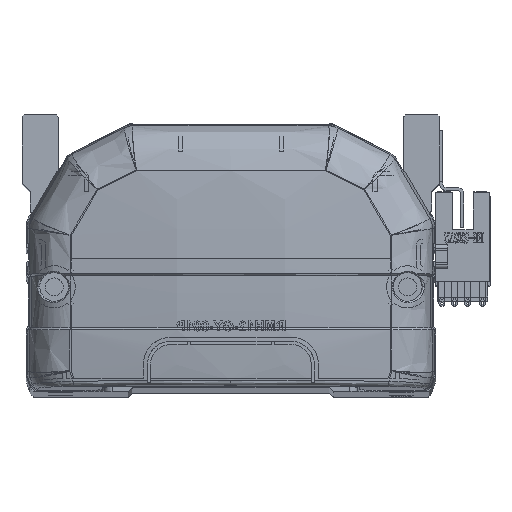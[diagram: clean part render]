
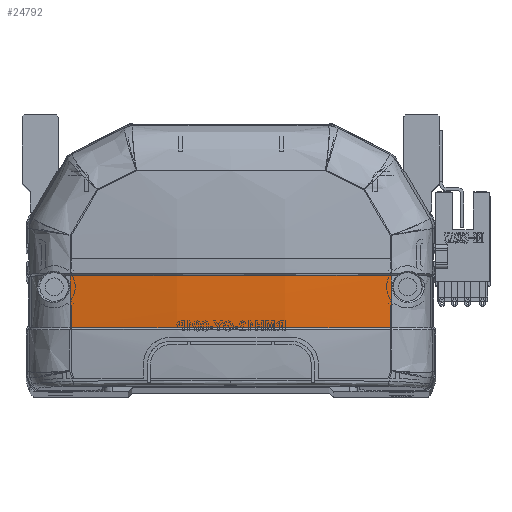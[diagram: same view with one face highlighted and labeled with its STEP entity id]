
A CAD part, top view. The second image highlights one B-rep face of the part: STEP entity #24792.
In plain terms, the highlighted free-form (B-spline) face has degree [3, 3] with [4, 4] control points.
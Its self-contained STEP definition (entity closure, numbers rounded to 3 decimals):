
#2374 = CARTESIAN_POINT ( 'NONE',  ( 39.973, 20.12, -6.142 ) ) ;
#3589 = CARTESIAN_POINT ( 'NONE',  ( 13.38, 15.83, -8.984 ) ) ;
#7023 = CARTESIAN_POINT ( 'NONE',  ( -13.373, 28.707, -9.468 ) ) ;
#7806 = ORIENTED_EDGE ( 'NONE', *, *, #35593, .T. ) ;
#8410 = CARTESIAN_POINT ( 'NONE',  ( -39.963, 28.706, -6.372 ) ) ;
#9068 = VERTEX_POINT ( 'NONE', #35617 ) ;
#11936 = ORIENTED_EDGE ( 'NONE', *, *, #25623, .T. ) ;
#12005 = CARTESIAN_POINT ( 'NONE',  ( 13.598, 28.769, -10.535 ) ) ;
#12384 = CARTESIAN_POINT ( 'NONE',  ( -13.598, 24.342, -10.47 ) ) ;
#12597 = CARTESIAN_POINT ( 'NONE',  ( 13.598, 19.918, -10.302 ) ) ;
#12736 = CARTESIAN_POINT ( 'NONE',  ( -13.384, 15.83, -8.724 ) ) ;
#13195 = CARTESIAN_POINT ( 'NONE',  ( -39.966, 24.412, -6.306 ) ) ;
#13644 = EDGE_LOOP ( 'NONE', ( #11936, #31912, #7806, #46050 ) ) ;
#13993 = CARTESIAN_POINT ( 'NONE',  ( -39.985, 15.83, -5.879 ) ) ;
#16947 = CARTESIAN_POINT ( 'NONE',  ( -26.721, 15.83, -7.624 ) ) ;
#17387 = CARTESIAN_POINT ( 'NONE',  ( 40.461, 28.832, -6.296 ) ) ;
#18141 = EDGE_CURVE ( 'NONE', #9068, #18737, #28667, .T. ) ;
#18737 = VERTEX_POINT ( 'NONE', #20833 ) ;
#20325 = CARTESIAN_POINT ( 'NONE',  ( 39.966, 24.413, -6.306 ) ) ;
#20833 = CARTESIAN_POINT ( 'NONE',  ( -39.985, 15.83, -5.879 ) ) ;
#21203 = CARTESIAN_POINT ( 'NONE',  ( -40.461, 24.47, -6.231 ) ) ;
#21388 = CARTESIAN_POINT ( 'NONE',  ( -13.598, 15.499, -10.032 ) ) ;
#21575 = CARTESIAN_POINT ( 'NONE',  ( -40.461, 15.757, -5.8 ) ) ;
#22381 = CARTESIAN_POINT ( 'NONE',  ( -39.973, 20.118, -6.142 ) ) ;
#23746 = CARTESIAN_POINT ( 'NONE',  ( -39.963, 28.706, -6.372 ) ) ;
#24086 = B_SPLINE_CURVE_WITH_KNOTS ( 'NONE', 3,
 ( #48179, #2374, #20325, #34203 ),
 .UNSPECIFIED., .F., .F.,
 ( 4, 4 ),
 ( 0., 1. ),
 .UNSPECIFIED. ) ;
#24154 = CARTESIAN_POINT ( 'NONE',  ( -26.748, 28.706, -8.432 ) ) ;
#24792 = ADVANCED_FACE ( 'NONE', ( #48797 ), #49740, .F. ) ;
#25623 = EDGE_CURVE ( 'NONE', #9068, #54892, #24086, .T. ) ;
#25694 = CARTESIAN_POINT ( 'NONE',  ( -33.365, 15.83, -6.848 ) ) ;
#25754 = CARTESIAN_POINT ( 'NONE',  ( -40.461, 28.832, -6.296 ) ) ;
#25940 = CARTESIAN_POINT ( 'NONE',  ( 13.598, 15.499, -10.032 ) ) ;
#28667 = B_SPLINE_CURVE_WITH_KNOTS ( 'NONE', 3,
 ( #39643, #44026, #3589, #49009, #12736, #31043, #16947, #25694, #35212, #44218 ),
 .UNSPECIFIED., .F., .F.,
 ( 4, 2, 2, 2, 4 ),
 ( 0., 0.04, 0.06, 0.07, 0.08 ),
 .UNSPECIFIED. ) ;
#29954 = CARTESIAN_POINT ( 'NONE',  ( 39.963, 28.706, -6.372 ) ) ;
#31043 = CARTESIAN_POINT ( 'NONE',  ( -23.389, 15.83, -7.947 ) ) ;
#31106 = CARTESIAN_POINT ( 'NONE',  ( 40.461, 15.757, -5.8 ) ) ;
#31912 = ORIENTED_EDGE ( 'NONE', *, *, #58060, .F. ) ;
#34127 = CARTESIAN_POINT ( 'NONE',  ( -39.963, 28.706, -6.372 ) ) ;
#34203 = CARTESIAN_POINT ( 'NONE',  ( 39.963, 28.706, -6.372 ) ) ;
#35212 = CARTESIAN_POINT ( 'NONE',  ( -36.679, 15.83, -6.395 ) ) ;
#35270 = CARTESIAN_POINT ( 'NONE',  ( -40.461, 20.111, -6.066 ) ) ;
#35593 = EDGE_CURVE ( 'NONE', #59134, #18737, #43713, .T. ) ;
#35617 = CARTESIAN_POINT ( 'NONE',  ( 39.985, 15.83, -5.879 ) ) ;
#35657 = CARTESIAN_POINT ( 'NONE',  ( 40.461, 20.111, -6.066 ) ) ;
#38678 = CARTESIAN_POINT ( 'NONE',  ( 26.749, 28.706, -8.432 ) ) ;
#39643 = CARTESIAN_POINT ( 'NONE',  ( 39.985, 15.83, -5.879 ) ) ;
#40085 = CARTESIAN_POINT ( 'NONE',  ( 13.598, 24.342, -10.47 ) ) ;
#40184 = B_SPLINE_CURVE_WITH_KNOTS ( 'NONE', 3,
 ( #23746, #24154, #7023, #52850, #38678, #52443 ),
 .UNSPECIFIED., .F., .F.,
 ( 4, 2, 4 ),
 ( 0., 0.5, 1. ),
 .UNSPECIFIED. ) ;
#43713 = B_SPLINE_CURVE_WITH_KNOTS ( 'NONE', 3,
 ( #8410, #13195, #22381, #13993 ),
 .UNSPECIFIED., .F., .F.,
 ( 4, 4 ),
 ( 0., 1. ),
 .UNSPECIFIED. ) ;
#44026 = CARTESIAN_POINT ( 'NONE',  ( 26.761, 15.83, -7.945 ) ) ;
#44218 = CARTESIAN_POINT ( 'NONE',  ( -39.985, 15.83, -5.879 ) ) ;
#46050 = ORIENTED_EDGE ( 'NONE', *, *, #18141, .F. ) ;
#48179 = CARTESIAN_POINT ( 'NONE',  ( 39.985, 15.83, -5.879 ) ) ;
#48461 = CARTESIAN_POINT ( 'NONE',  ( -13.598, 19.918, -10.302 ) ) ;
#48665 = CARTESIAN_POINT ( 'NONE',  ( 40.461, 24.47, -6.231 ) ) ;
#48797 = FACE_OUTER_BOUND ( 'NONE', #13644, .T. ) ;
#49009 = CARTESIAN_POINT ( 'NONE',  ( -6.692, 15.83, -8.984 ) ) ;
#49740 =( BOUNDED_SURFACE ( )  B_SPLINE_SURFACE ( 3, 3, ( 
 ( #31106, #35657, #48665, #17387 ),
 ( #25940, #12597, #40085, #12005 ),
 ( #21388, #48461, #12384, #53269 ),
 ( #21575, #35270, #21203, #25754 ) ),
 .UNSPECIFIED., .F., .F., .F. ) 
 B_SPLINE_SURFACE_WITH_KNOTS ( ( 4, 4 ),
 ( 4, 4 ),
 ( 0., 1. ),
 ( 0., 1. ),
 .UNSPECIFIED. ) 
 GEOMETRIC_REPRESENTATION_ITEM ( )  RATIONAL_B_SPLINE_SURFACE ( (
 ( 1., 1., 1., 1.),
 ( 0.992, 0.992, 0.992, 0.992),
 ( 0.992, 0.992, 0.992, 0.992),
 ( 1., 1., 1., 1.) ) ) 
 REPRESENTATION_ITEM ( '' )  SURFACE ( )  );
#52443 = CARTESIAN_POINT ( 'NONE',  ( 39.963, 28.706, -6.372 ) ) ;
#52850 = CARTESIAN_POINT ( 'NONE',  ( 13.375, 28.707, -9.468 ) ) ;
#53269 = CARTESIAN_POINT ( 'NONE',  ( -13.598, 28.769, -10.535 ) ) ;
#54892 = VERTEX_POINT ( 'NONE', #29954 ) ;
#58060 = EDGE_CURVE ( 'NONE', #59134, #54892, #40184, .T. ) ;
#59134 = VERTEX_POINT ( 'NONE', #34127 ) ;
